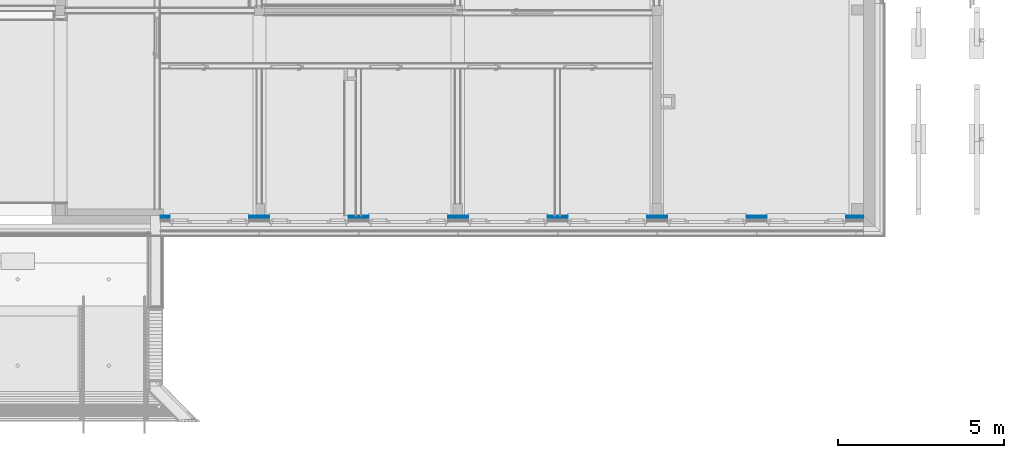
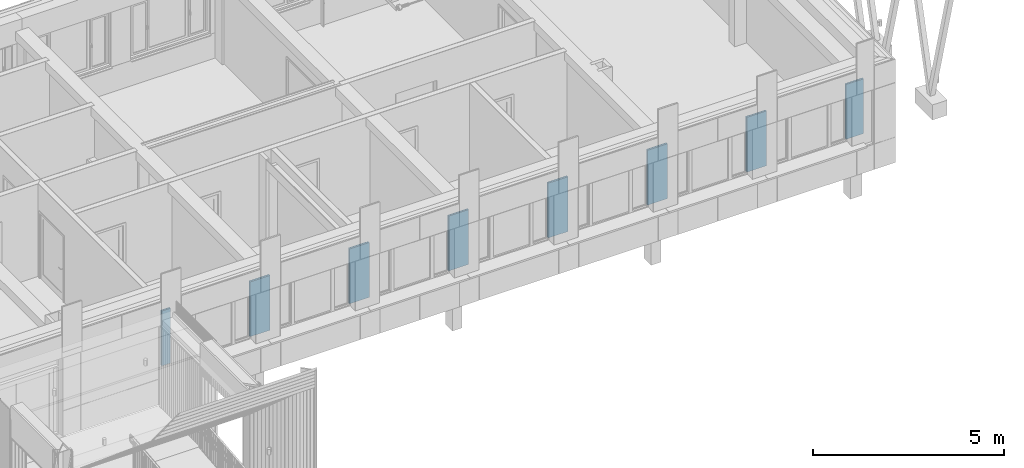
# One storey, part 40 of 418: 2 building element parts, 7 openings, 1 element without a shape of its own.
"""IFC2X3 building model written with IfcOpenShell, lengths in millimetres."""

from ifc_helpers import new_model, entity, si_unit, converted_unit, derived_unit, money_unit, direction, frame, origin_with_axes, origin_2d_with_axis, place, context, subcontext, project, spatial, polyline, rectangle, outline, extrude, material, type_object, element, aggregate, save


model = new_model("IFC2X3")

# Units and contexts
model_context = context("Model", 3, precision=0.01, world=origin_with_axes(), true_north=direction((0.0, 1.0)))
body_context = subcontext(model_context, "Body", "Model", "MODEL_VIEW")
ifc_project = project(units=[si_unit("LENGTHUNIT", "METRE", prefix="MILLI"), si_unit("AREAUNIT", "SQUARE_METRE"), si_unit("VOLUMEUNIT", "CUBIC_METRE"), converted_unit("PLANEANGLEUNIT", "DEGREE", entity("IfcPlaneAngleMeasure", 0.0174532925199), si_unit("PLANEANGLEUNIT", "RADIAN"), dimensions=[0, 0, 0, 0, 0, 0, 0]), si_unit("SOLIDANGLEUNIT", "STERADIAN"), money_unit("EUR"), converted_unit("TIMEUNIT", "Year", entity("IfcTimeMeasure", 31556926.0), si_unit("TIMEUNIT", "SECOND"), dimensions=[0, 0, 1, 0, 0, 0, 0]), si_unit("MASSUNIT", "GRAM", prefix="KILO"), si_unit("THERMODYNAMICTEMPERATUREUNIT", "DEGREE_CELSIUS"), si_unit("LUMINOUSINTENSITYUNIT", "LUMEN"), si_unit("ENERGYUNIT", "JOULE", prefix="MEGA"), derived_unit("THERMALCONDUCTANCEUNIT", [(si_unit("POWERUNIT", "WATT"), 1), (si_unit("LENGTHUNIT", "METRE"), -1), (si_unit("THERMODYNAMICTEMPERATUREUNIT", "KELVIN"), -1)]), derived_unit("SPECIFICHEATCAPACITYUNIT", [(si_unit("ENERGYUNIT", "JOULE"), 1), (si_unit("MASSUNIT", "GRAM", prefix="KILO"), -1), (si_unit("THERMODYNAMICTEMPERATUREUNIT", "KELVIN"), -1)]), derived_unit("MASSDENSITYUNIT", [(si_unit("MASSUNIT", "GRAM", prefix="KILO"), 1), (si_unit("VOLUMEUNIT", "CUBIC_METRE"), -1)])], contexts=[model_context])

# Site, building, storey
site_placement = place(None, origin_with_axes())
site = spatial("IfcSite", under=ifc_project, at=site_placement, Name="Paldiski mnt 245/1, Tallinn, Harjumaa", CompositionType="COMPLEX")
building_placement = place(site_placement, origin_with_axes())
building = spatial("IfcBuilding", under=site, at=building_placement, Name="RKAS Hoone üldnimetus (kasutust iseloomustav) -> IFC Project Manager -> SOLIBRI", CompositionType="ELEMENT")
storey_placement = place(building_placement, origin_with_axes())
storey = spatial("IfcBuildingStorey", under=building, at=storey_placement, Name="Esimene korrus", CompositionType="ELEMENT", Elevation=0.0)

# Wall, openings, building element parts
wall_type = type_object("IfcWallType", Name="VS-04_uued_sisekihid 63", PredefinedType="NOTDEFINED")
wall_placement = place(storey_placement, frame((-17230.0, -12512.0843011, 810.0), z_axis=(0.0, 0.0, 1.0), x_axis=(-1.0, 0.0, 0.0)))
wall = element("IfcWall", 1, at=wall_placement, inside=storey, type_object=wall_type, Name="VS-04")
opening_1_placement = place(wall_placement, frame((19720.0, -4.56523707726e-10, 0.0), z_axis=(0.0, 0.0, 1.0), x_axis=(1.0, 0.0, 0.0)))
element("IfcOpeningElement", 2, at=opening_1_placement, cuts=wall, Name="AVA", context=body_context, shape_type="SweptSolid", body=[
    extrude(rectangle(XDim=2400.0, YDim=1750.0, at=origin_2d_with_axis()), frame((0.0, -16.9999999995, 875.0), z_axis=(0.0, -1.0, 0.0), x_axis=(1.0, 0.0, 0.0)), (0.0, 0.0, -1.0), 143.0),
    extrude(rectangle(XDim=2400.0, YDim=1750.0, at=origin_2d_with_axis()), frame((0.0, -16.9999999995, 875.0), z_axis=(0.0, 1.0, 0.0), x_axis=(1.0, 0.0, 0.0)), (0.0, 0.0, -1.0), 143.0),
])
opening_2_placement = place(wall_placement, frame((16720.0, -3.87245790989e-10, 0.0), z_axis=(0.0, 0.0, 1.0), x_axis=(1.0, 0.0, 0.0)))
element("IfcOpeningElement", 3, at=opening_2_placement, cuts=wall, Name="AVA", context=body_context, shape_type="SweptSolid", body=[
    extrude(rectangle(XDim=2400.0, YDim=1750.0, at=origin_2d_with_axis()), frame((0.0, -16.9999999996, 875.0), z_axis=(0.0, -1.0, 0.0), x_axis=(1.0, 0.0, 0.0)), (0.0, 0.0, -1.0), 143.0),
    extrude(rectangle(XDim=2400.0, YDim=1750.0, at=origin_2d_with_axis()), frame((0.0, -16.9999999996, 875.0), z_axis=(0.0, 1.0, 0.0), x_axis=(1.0, 0.0, 0.0)), (0.0, 0.0, -1.0), 143.0),
])
opening_3_placement = place(wall_placement, frame((13720.0, -3.17967874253e-10, 0.0), z_axis=(0.0, 0.0, 1.0), x_axis=(1.0, 0.0, 0.0)))
element("IfcOpeningElement", 4, at=opening_3_placement, cuts=wall, Name="AVA", context=body_context, shape_type="SweptSolid", body=[
    extrude(rectangle(XDim=2400.0, YDim=1750.0, at=origin_2d_with_axis()), frame((0.0, -16.9999999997, 875.0), z_axis=(0.0, -1.0, 0.0), x_axis=(1.0, 0.0, 0.0)), (0.0, 0.0, -1.0), 143.0),
    extrude(rectangle(XDim=2400.0, YDim=1750.0, at=origin_2d_with_axis()), frame((0.0, -16.9999999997, 875.0), z_axis=(0.0, 1.0, 0.0), x_axis=(1.0, 0.0, 0.0)), (0.0, 0.0, -1.0), 143.0),
])
opening_4_placement = place(wall_placement, frame((10720.0, -2.48689957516e-10, 0.0), z_axis=(0.0, 0.0, 1.0), x_axis=(1.0, 0.0, 0.0)))
element("IfcOpeningElement", 5, at=opening_4_placement, cuts=wall, Name="AVA", context=body_context, shape_type="SweptSolid", body=[
    extrude(rectangle(XDim=2400.0, YDim=1750.0, at=origin_2d_with_axis()), frame((0.0, -16.9999999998, 875.0), z_axis=(0.0, -1.0, 0.0), x_axis=(1.0, 0.0, 0.0)), (0.0, 0.0, -1.0), 143.0),
    extrude(rectangle(XDim=2400.0, YDim=1750.0, at=origin_2d_with_axis()), frame((0.0, -16.9999999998, 875.0), z_axis=(0.0, 1.0, 0.0), x_axis=(1.0, 0.0, 0.0)), (0.0, 0.0, -1.0), 143.0),
])
opening_5_placement = place(wall_placement, frame((7720.0, -1.79412040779e-10, 0.0), z_axis=(0.0, 0.0, 1.0), x_axis=(1.0, 0.0, 0.0)))
element("IfcOpeningElement", 6, at=opening_5_placement, cuts=wall, Name="AVA", context=body_context, shape_type="SweptSolid", body=[
    extrude(rectangle(XDim=2400.0, YDim=1750.0, at=origin_2d_with_axis()), frame((0.0, -16.9999999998, 875.0), z_axis=(0.0, -1.0, 0.0), x_axis=(1.0, 0.0, 0.0)), (0.0, 0.0, -1.0), 143.0),
    extrude(rectangle(XDim=2400.0, YDim=1750.0, at=origin_2d_with_axis()), frame((0.0, -16.9999999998, 875.0), z_axis=(0.0, 1.0, 0.0), x_axis=(1.0, 0.0, 0.0)), (0.0, 0.0, -1.0), 143.0),
])
opening_6_placement = place(wall_placement, frame((4720.0, -1.08357767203e-10, 0.0), z_axis=(0.0, 0.0, 1.0), x_axis=(1.0, 0.0, 0.0)))
element("IfcOpeningElement", 7, at=opening_6_placement, cuts=wall, Name="AVA", context=body_context, shape_type="SweptSolid", body=[
    extrude(rectangle(XDim=2400.0, YDim=1750.0, at=origin_2d_with_axis()), frame((0.0, -16.9999999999, 875.0), z_axis=(0.0, -1.0, 0.0), x_axis=(1.0, 0.0, 0.0)), (0.0, 0.0, -1.0), 143.0),
    extrude(rectangle(XDim=2400.0, YDim=1750.0, at=origin_2d_with_axis()), frame((0.0, -16.9999999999, 875.0), z_axis=(0.0, 1.0, 0.0), x_axis=(1.0, 0.0, 0.0)), (0.0, 0.0, -1.0), 143.0),
])
opening_7_placement = place(wall_placement, frame((1720.0, 0.0, 0.0), z_axis=(0.0, 0.0, 1.0), x_axis=(1.0, 0.0, 0.0)))
element("IfcOpeningElement", 8, at=opening_7_placement, cuts=wall, Name="AVA", context=body_context, shape_type="SweptSolid", body=[
    extrude(rectangle(XDim=2400.0, YDim=1750.0, at=origin_2d_with_axis()), frame((0.0, -17.0, 875.0), z_axis=(0.0, -1.0, 0.0), x_axis=(1.0, 0.0, 0.0)), (0.0, 0.0, -1.0), 143.0),
    extrude(rectangle(XDim=2400.0, YDim=1750.0, at=origin_2d_with_axis()), frame((0.0, -17.0, 875.0), z_axis=(0.0, 1.0, 0.0), x_axis=(1.0, 0.0, 0.0)), (0.0, 0.0, -1.0), 143.0),
])
ifc_material_1 = material(Name="VKR-06_Õhkvahe")
building_element_part_1_placement = place(wall_placement, origin_with_axes())
building_element_part_1 = element("IfcBuildingElementPart", 9, at=building_element_part_1_placement, material=ifc_material_1, Name="VKR-06_Õhkvahe", context=body_context, shape_type="SweptSolid", body=[
    extrude(outline(polyline([(0.0, 13.0), (21190.0, 13.0), (21190.0, 63.0), (0.0, 63.0), (0.0, 13.0)])), origin_with_axes(), (0.0, 0.0, 1.0), 1750.0),
])
ifc_material_2 = material(Name="Kipsplaat Knauf GKF vm")
building_element_part_2_placement = place(wall_placement, origin_with_axes())
building_element_part_2 = element("IfcBuildingElementPart", 10, at=building_element_part_2_placement, material=ifc_material_2, Name="Kipsplaat Knauf GKF vm", context=body_context, shape_type="SweptSolid", body=[
    extrude(outline(polyline([(0.0, 0.0), (21190.0, 0.0), (21190.0, 13.0), (0.0, 13.0), (0.0, 0.0)])), origin_with_axes(), (0.0, 0.0, 1.0), 1750.0),
])
aggregate(wall, [building_element_part_1, building_element_part_2])

save(model, "model.ifc")
